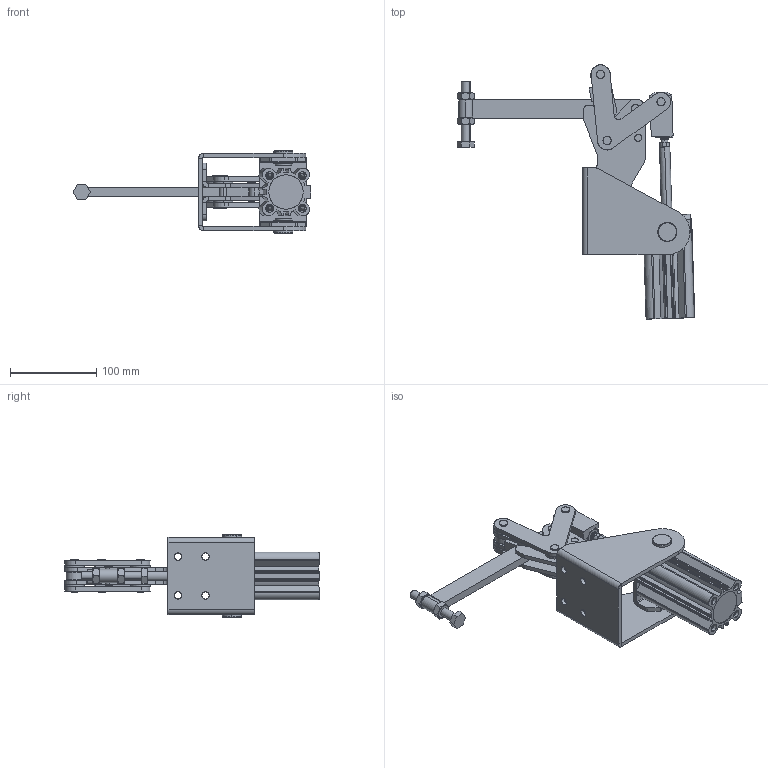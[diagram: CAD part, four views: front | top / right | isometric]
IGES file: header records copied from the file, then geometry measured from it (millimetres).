
Start section: SolidWorks IGES file using analytic representation for surfaces
Global section: file name: C:\Projetos\Grampos\KF-411 P\KF-411 DS P\KF-411 DS P.IGS; native system: SolidWorks 2015; preprocessor: SolidWorks 2015; author: Ricardo; date: 161215.115032; units: millimetre
Bounding box: 275.4 x 294.85 x 95.5 mm (x, y, z)
Surface area: 248399.8 mm2 (no closed solid volume)
Topology: 0 solids, 0 shells, 744 faces, 12258 edges, 12246 vertices
Faces by surface type: revolution 453, bspline 291
